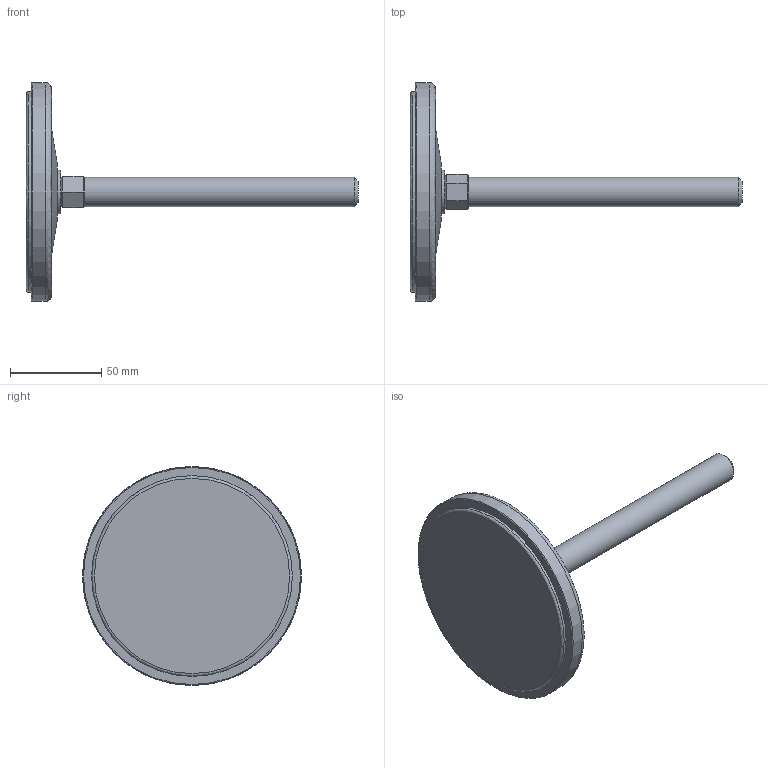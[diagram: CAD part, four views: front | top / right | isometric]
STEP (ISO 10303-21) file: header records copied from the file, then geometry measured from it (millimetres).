
FILE_DESCRIPTION(('STEP AP203'),'2;1');
FILE_NAME('15223-G.stp','2014-03-11T10:18:14',(''),(''),'2008.1.107','THINKDESIGN','');
FILE_SCHEMA(('CONFIG_CONTROL_DESIGN'));
Length unit declared in the file: millimetre
Bounding box: 182 x 120 x 120 mm (x, y, z)
Volume: 188107.1 mm3; surface area: 58416.8 mm2
Topology: 5 solids, 5 shells, 49 faces, 118 edges, 84 vertices
Faces by surface type: bspline 22, plane 19, cylinder 8
Full cylindrical faces by diameter (mm): 12.5 x2, 14.7 x1, 16 x1, 24 x1, 110 x2, 120 x1
Entity records: 2480 total; most frequent: CARTESIAN_POINT 1143, DIRECTION 232, ORIENTED_EDGE 232, EDGE_CURVE 116, AXIS2_PLACEMENT_3D 87, VERTEX_POINT 80, CIRCLE 60, EDGE_LOOP 58
